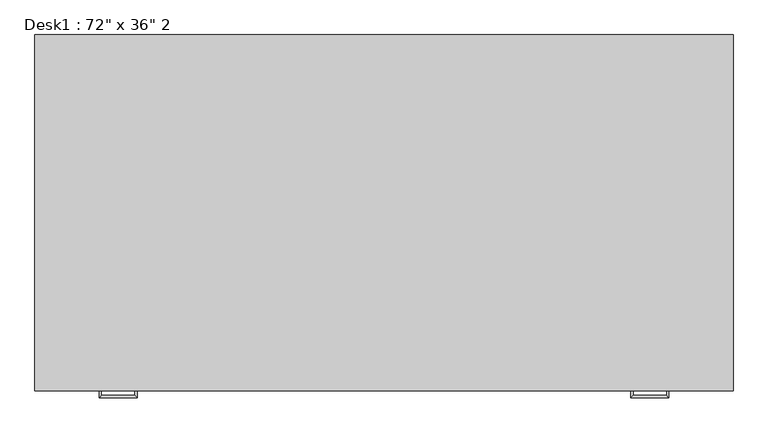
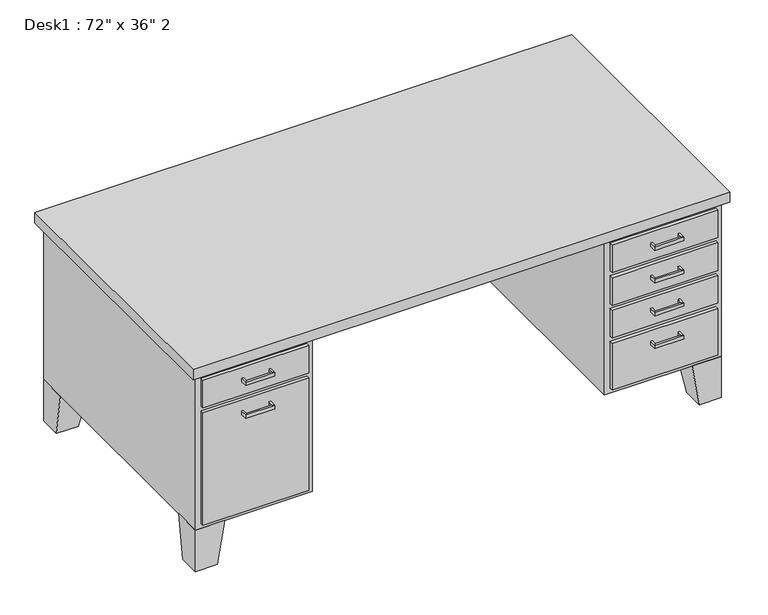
"""IFC4 building model written with IfcOpenShell, lengths in millimetres: furniture geometry."""

import ifcopenshell
import ifcopenshell.guid

model = None  # the IFC model being written
_history = None  # IfcOwnerHistory: only IFC2X3 demands one
_inside = {}  # id of a spatial element -> (the spatial element, [elements in it])
_under = {}  # id of a project, library or spatial element -> (it, [spatial elements below it])
_declared = {}  # id of a project -> (the project, [libraries it declares])
_typed = {}  # id of a type object -> (the type object, [elements of that type])
_made_of = {}  # id of a material, layer set ... -> (it, [elements and type objects made of it])


def new_model(schema):
    """Start an empty IFC model of exactly this schema.

    Asked for "IFC4X3", IfcOpenShell would pick the latest addendum, in which some entities
    have other attributes; the version numbers below select the first issue.
    IFC2X3 requires an IfcOwnerHistory on every rooted entity: one is made here for all.
    """
    global model, _history
    if schema == "IFC4X3":
        model = ifcopenshell.file(schema_version=(4, 3, 0, 0))
    else:
        model = ifcopenshell.file(schema=schema)
    _inside.clear()
    _under.clear()
    _declared.clear()
    _typed.clear()
    _made_of.clear()
    _history = None
    if model.schema == "IFC2X3":
        org = make("IfcOrganization", Name="unknown")
        user = make(
            "IfcPersonAndOrganization",
            ThePerson=make("IfcPerson", FamilyName="unknown"),
            TheOrganization=org,
        )
        app = make(
            "IfcApplication",
            ApplicationDeveloper=org,
            Version="unknown",
            ApplicationFullName="unknown",
            ApplicationIdentifier="unknown",
        )
        _history = make(
            "IfcOwnerHistory",
            OwningUser=user,
            OwningApplication=app,
            ChangeAction="ADDED",
            CreationDate=0,
        )
    return model


def make(cls, **values):
    """One entity of the class cls with the attributes given. An attribute that is None is left unset."""
    return model.create_entity(
        cls, **{name: value for name, value in values.items() if value is not None}
    )


def rooted(cls, **values):
    """An entity with a GlobalId (a new one), such as an element, a storey or a relation."""
    return make(cls, GlobalId=ifcopenshell.guid.new(), OwnerHistory=_history, **values)


def si_unit(unit_type, name, prefix=None):
    """IfcSIUnit, for example si_unit("LENGTHUNIT", "METRE", prefix="MILLI")."""
    return make("IfcSIUnit", UnitType=unit_type, Prefix=prefix, Name=name)


def assignment(units):
    """IfcUnitAssignment: the units of a project."""
    return None if units is None else make("IfcUnitAssignment", Units=units)


def point(xyz):
    """IfcCartesianPoint."""
    return None if xyz is None else make("IfcCartesianPoint", Coordinates=xyz)


def direction(xyz):
    """IfcDirection."""
    return None if xyz is None else make("IfcDirection", DirectionRatios=xyz)


def frame(location, z_axis=None, x_axis=None):
    """IfcAxis2Placement3D, a coordinate frame: its origin and axes. An axis left out is left unset."""
    return make(
        "IfcAxis2Placement3D",
        Location=point(location),
        Axis=direction(z_axis),
        RefDirection=direction(x_axis),
    )


def origin():
    """The frame at (0, 0, 0) with its axes left unset."""
    return frame((0.0, 0.0, 0.0))


def place(relative_to, where):
    """IfcLocalPlacement: puts the frame where relative to a parent placement (None: the world)."""
    return make(
        "IfcLocalPlacement", PlacementRelTo=relative_to, RelativePlacement=where
    )


def context(
    kind, dimensions, precision=None, world=None, true_north=None, identifier=None
):
    """IfcGeometricRepresentationContext, for example the 3D "Model" context."""
    return make(
        "IfcGeometricRepresentationContext",
        ContextIdentifier=identifier,
        ContextType=kind,
        CoordinateSpaceDimension=dimensions,
        Precision=precision,
        WorldCoordinateSystem=world,
        TrueNorth=true_north,
    )


def project(units=None, contexts=None):
    """IfcProject with its units and contexts."""
    return rooted(
        "IfcProject",
        Name="project",
        RepresentationContexts=contexts,
        UnitsInContext=assignment(units),
    )


def spatial(cls, under=None, at=None, **own):
    """A site, building, storey or space (cls), placed at a placement, below another one or the project."""
    s = rooted(cls, ObjectPlacement=at, **own)
    if under is not None:
        _under.setdefault(under.id(), (under, []))[1].append(s)
    return s


def polyline(points):
    """IfcPolyline through the points."""
    return make("IfcPolyline", Points=[point(p) for p in points])


def outline(outer, holes=None, kind="AREA"):
    """IfcArbitraryClosedProfileDef: a profile drawn as a closed curve; with holes, ...WithVoids."""
    if holes is None:
        return make("IfcArbitraryClosedProfileDef", ProfileType=kind, OuterCurve=outer)
    return make(
        "IfcArbitraryProfileDefWithVoids",
        ProfileType=kind,
        OuterCurve=outer,
        InnerCurves=holes,
    )


def extrude(swept, where, along, depth):
    """IfcExtrudedAreaSolid: the profile swept, set in the frame where, extruded along a direction by depth."""
    return make(
        "IfcExtrudedAreaSolid",
        SweptArea=swept,
        Position=where,
        ExtrudedDirection=direction(along),
        Depth=depth,
    )


def faces_of(points, faces, orient=None, outer=None):
    """IfcFace entities. A face is a list of loops; a loop is a list of indices into points, from 0.

    orient and outer hold one flag for each loop. By default every Orientation is true, the
    first loop of a face is its IfcFaceOuterBound and the others are IfcFaceBound.
    """
    made = []
    for i, loops in enumerate(faces):
        bounds = []
        for j, loop in enumerate(loops):
            is_outer = j == 0 if outer is None else outer[i][j]
            bounds.append(
                make(
                    "IfcFaceOuterBound" if is_outer else "IfcFaceBound",
                    Bound=make("IfcPolyLoop", Polygon=[points[k] for k in loop]),
                    Orientation=True if orient is None else orient[i][j],
                )
            )
        made.append(make("IfcFace", Bounds=bounds))
    return made


def faceted_brep(points, faces, orient=None, outer=None, voids=None):
    """IfcFacetedBrep: a solid bounded by flat faces; with voids (closed shells), ...WithVoids."""
    shared = [point(p) for p in points]
    hull = make("IfcClosedShell", CfsFaces=faces_of(shared, faces, orient, outer))
    if voids is None:
        return make("IfcFacetedBrep", Outer=hull)
    return make(
        "IfcFacetedBrepWithVoids",
        Outer=hull,
        Voids=[
            make(cls, CfsFaces=faces_of(shared, fs, o, b)) for cls, fs, o, b in voids
        ],
    )


def shape(context_of_items, identifier, shape_type, items):
    """IfcShapeRepresentation: the items that make up one representation, for example the "Body"."""
    return make(
        "IfcShapeRepresentation",
        ContextOfItems=context_of_items,
        RepresentationIdentifier=identifier,
        RepresentationType=shape_type,
        Items=items,
    )


def source(mapping_origin, context_of_items, identifier, shape_type, items):
    """IfcRepresentationMap: a shape defined once, which mapped items show again and again."""
    return make(
        "IfcRepresentationMap",
        MappingOrigin=mapping_origin,
        MappedRepresentation=shape(context_of_items, identifier, shape_type, items),
    )


def transform(
    local_origin,
    x_axis=None,
    y_axis=None,
    z_axis=None,
    scale=None,
    scale2=None,
    scale3=None,
    uniform=True,
):
    """IfcCartesianTransformationOperator3D, or its non-uniform kind. x_axis, y_axis, z_axis: its Axis1, 2, 3."""
    if uniform:
        return make(
            "IfcCartesianTransformationOperator3D",
            Axis1=direction(x_axis),
            Axis2=direction(y_axis),
            LocalOrigin=point(local_origin),
            Scale=scale,
            Axis3=direction(z_axis),
        )
    return make(
        "IfcCartesianTransformationOperator3DnonUniform",
        Axis1=direction(x_axis),
        Axis2=direction(y_axis),
        LocalOrigin=point(local_origin),
        Scale=scale,
        Axis3=direction(z_axis),
        Scale2=scale2,
        Scale3=scale3,
    )


def mapped(mapping_source, mapping_target):
    """IfcMappedItem: shows the shape of a source again, moved by a transform."""
    return make(
        "IfcMappedItem", MappingSource=mapping_source, MappingTarget=mapping_target
    )


def made_of(thing, what):
    """Note that an element or type object is made of a material, layer set ...; save() writes the relation."""
    if what is not None:
        _made_of.setdefault(what.id(), (what, []))[1].append(thing)
    return thing


def element(
    cls,
    number,
    at=None,
    inside=None,
    cuts=None,
    type_object=None,
    material=None,
    context=None,
    identifier="Body",
    shape_type=None,
    held_by="IfcProductDefinitionShape",
    body=None,
    shapes=None,
    **own,
):
    """One element of the class cls, such as IfcWall. Its Tag is "e" and its number.

    at: its placement. inside: the storey or other place that contains it. cuts: it is an
    opening in that element (IfcRelVoidsElement). A single representation is given by context,
    identifier, shape_type and body (its items); several are given by shapes. held_by: the class
    of the entity that holds the representations. save() writes the other relations.
    """
    e = rooted(cls, Tag="e%d" % number, ObjectPlacement=at, **own)
    if body is not None:
        shapes = [shape(context, identifier, shape_type, body)]
    if shapes is not None:
        e.Representation = make(held_by, Representations=shapes)
    if inside is not None:
        _inside.setdefault(inside.id(), (inside, []))[1].append(e)
    if cuts is not None:
        rooted(
            "IfcRelVoidsElement", RelatingBuildingElement=cuts, RelatedOpeningElement=e
        )
    if type_object is not None:
        _typed.setdefault(type_object.id(), (type_object, []))[1].append(e)
    return made_of(e, material)


def aggregate(whole, parts):
    """IfcRelAggregates: a whole, such as a stair, and the parts it consists of."""
    return rooted("IfcRelAggregates", RelatingObject=whole, RelatedObjects=parts)


def save(model, path):
    """Write the relations noted so far, then the file.

    IfcRelAggregates (storeys below a building ...), IfcRelContainedInSpatialStructure (elements
    in a storey), IfcRelDefinesByType, IfcRelAssociatesMaterial and IfcRelDeclares: one each for
    every whole, place, type object, material and project.
    """
    for whole, parts in _under.values():
        aggregate(whole, parts)
    for where, things in _inside.values():
        rooted(
            "IfcRelContainedInSpatialStructure",
            RelatedElements=things,
            RelatingStructure=where,
        )
    for kind, things in _typed.values():
        rooted("IfcRelDefinesByType", RelatedObjects=things, RelatingType=kind)
    for what, things in _made_of.values():
        rooted("IfcRelAssociatesMaterial", RelatedObjects=things, RelatingMaterial=what)
    for by, libraries in _declared.values():
        rooted("IfcRelDeclares", RelatingContext=by, RelatedDefinitions=libraries)
    model.write(path)


def furniture_95783df2(model_context):
    return source(origin(), model_context, "Body", "SolidModel", [
        extrude(outline(polyline([(-133.35, -76.2), (234.95, -76.2), (234.95, -88.9), (-133.35, -88.9), (-133.35, -76.2)])), frame((0.0, 0.0, 603.25), z_axis=(0.0, 0.0, 1.0), x_axis=(1.0, 0.0, 0.0)), (0.0, 0.0, 1.0), 101.6),
        extrude(outline(polyline([(-133.35, -76.2), (234.95, -76.2), (234.95, -88.9), (-133.35, -88.9), (-133.35, -76.2)])), frame((0.0, 0.0, 171.45), z_axis=(0.0, 0.0, 1.0), x_axis=(1.0, 0.0, 0.0)), (0.0, 0.0, 1.0), 412.75),
        extrude(outline(polyline([(1289.05, -76.2), (1657.35, -76.2), (1657.35, -88.9), (1289.05, -88.9), (1289.05, -76.2)])), frame((0.0, 0.0, 603.25), z_axis=(0.0, 0.0, 1.0), x_axis=(1.0, 0.0, 0.0)), (0.0, 0.0, 1.0), 101.6),
        extrude(outline(polyline([(1289.05, -76.2), (1657.35, -76.2), (1657.35, -88.9), (1289.05, -88.9), (1289.05, -76.2)])), frame((0.0, 0.0, 171.45), z_axis=(0.0, 0.0, 1.0), x_axis=(1.0, 0.0, 0.0)), (0.0, 0.0, 1.0), 171.45),
        extrude(outline(polyline([(1289.05, -76.2), (1657.35, -76.2), (1657.35, -88.9), (1289.05, -88.9), (1289.05, -76.2)])), frame((0.0, 0.0, 482.6), z_axis=(0.0, 0.0, 1.0), x_axis=(1.0, 0.0, 0.0)), (0.0, 0.0, 1.0), 101.6),
        extrude(outline(polyline([(1289.05, -76.2), (1657.35, -76.2), (1657.35, -88.9), (1289.05, -88.9), (1289.05, -76.2)])), frame((0.0, 0.0, 361.95), z_axis=(0.0, 0.0, 1.0), x_axis=(1.0, 0.0, 0.0)), (0.0, 0.0, 1.0), 101.6),
        faceted_brep([(-50.8, -76.2, 152.4), (-50.8, 25.4, 152.4), (-152.4, 25.4, 152.4), (-152.4, -76.2, 152.4), (-76.2, -76.2, 0.0), (-152.4, -76.2, 0.0), (-152.4, 0.0, 0.0), (-76.2, 0.0, 0.0)], [[[0, 1, 2, 3]], [[4, 5, 6, 7]], [[4, 7, 1, 0]], [[7, 6, 2, 1]], [[6, 5, 3, 2]], [[5, 4, 0, 3]]]),
        faceted_brep([(-50.8, 838.2, 152.4), (-152.4, 838.2, 152.4), (-152.4, 736.6, 152.4), (-50.8, 736.6, 152.4), (-76.2, 838.2, 0.0), (-76.2, 762.0, 0.0), (-152.4, 762.0, 0.0), (-152.4, 838.2, 0.0)], [[[0, 1, 2, 3]], [[4, 5, 6, 7]], [[4, 7, 1, 0]], [[7, 6, 2, 1]], [[6, 5, 3, 2]], [[5, 4, 0, 3]]]),
        faceted_brep([(1574.8, 838.2, 152.4), (1574.8, 736.6, 152.4), (1676.4, 736.6, 152.4), (1676.4, 838.2, 152.4), (1600.2, 838.2, 0.0), (1676.4, 838.2, 0.0), (1676.4, 762.0, 0.0), (1600.2, 762.0, 0.0)], [[[0, 1, 2, 3]], [[4, 5, 6, 7]], [[4, 7, 1, 0]], [[7, 6, 2, 1]], [[6, 5, 3, 2]], [[5, 4, 0, 3]]]),
        faceted_brep([(1574.8, -76.2, 152.4), (1676.4, -76.2, 152.4), (1676.4, 25.4, 152.4), (1574.8, 25.4, 152.4), (1600.2, -76.2, 0.0), (1600.2, 0.0, 0.0), (1676.4, 0.0, 0.0), (1676.4, -76.2, 0.0)], [[[0, 1, 2, 3]], [[4, 5, 6, 7]], [[4, 7, 1, 0]], [[7, 6, 2, 1]], [[6, 5, 3, 2]], [[5, 4, 0, 3]]]),
        extrude(outline(polyline([(-171.45, -95.25), (-171.45, 857.25), (1695.45, 857.25), (1695.45, -95.25), (-171.45, -95.25)])), frame((0.0, 0.0, 723.9), z_axis=(0.0, 0.0, 1.0), x_axis=(1.0, 0.0, 0.0)), (0.0, 0.0, 1.0), 38.1),
        extrude(outline(polyline([(1270.0, -76.2), (1270.0, 711.2), (254.0, 711.2), (254.0, -76.2), (-152.4, -76.2), (-152.4, 838.2), (1676.4, 838.2), (1676.4, -76.2), (1270.0, -76.2)])), frame((0.0, 0.0, 152.4), z_axis=(0.0, 0.0, 1.0), x_axis=(1.0, 0.0, 0.0)), (0.0, 0.0, 1.0), 571.5),
        faceted_brep([(6.35, -88.9, 546.1), (6.35, -88.9, 533.4), (0.0, -88.9, 533.4), (0.0, -88.9, 546.1), (6.35, -107.95, 546.1), (6.35, -107.95, 533.4), (0.0, -114.3, 533.4), (0.0, -114.3, 546.1), (95.25, -107.95, 546.1), (95.25, -107.95, 533.4), (101.6, -114.3, 533.4), (101.6, -114.3, 546.1), (95.25, -88.9, 546.1), (101.6, -88.9, 546.1), (101.6, -88.9, 533.4), (95.25, -88.9, 533.4)], [[[0, 1, 2, 3]], [[1, 0, 4, 5]], [[2, 1, 5, 6]], [[3, 2, 6, 7]], [[0, 3, 7, 4]], [[5, 4, 8, 9]], [[6, 5, 9, 10]], [[7, 6, 10, 11]], [[4, 7, 11, 8]], [[12, 13, 14, 15]], [[9, 8, 12, 15]], [[10, 9, 15, 14]], [[11, 10, 14, 13]], [[8, 11, 13, 12]]]),
        faceted_brep([(6.35, -88.9, 666.75), (6.35, -88.9, 654.05), (0.0, -88.9, 654.05), (0.0, -88.9, 666.75), (6.35, -107.95, 666.75), (6.35, -107.95, 654.05), (0.0, -114.3, 654.05), (0.0, -114.3, 666.75), (95.25, -107.95, 666.75), (95.25, -107.95, 654.05), (101.6, -114.3, 654.05), (101.6, -114.3, 666.75), (95.25, -88.9, 666.75), (101.6, -88.9, 666.75), (101.6, -88.9, 654.05), (95.25, -88.9, 654.05)], [[[0, 1, 2, 3]], [[1, 0, 4, 5]], [[2, 1, 5, 6]], [[3, 2, 6, 7]], [[0, 3, 7, 4]], [[5, 4, 8, 9]], [[6, 5, 9, 10]], [[7, 6, 10, 11]], [[4, 7, 11, 8]], [[12, 13, 14, 15]], [[9, 8, 12, 15]], [[10, 9, 15, 14]], [[11, 10, 14, 13]], [[8, 11, 13, 12]]]),
        faceted_brep([(1517.65, -88.9, 304.8), (1524.0, -88.9, 304.8), (1524.0, -88.9, 292.1), (1517.65, -88.9, 292.1), (1517.65, -107.95, 304.8), (1524.0, -114.3, 304.8), (1524.0, -114.3, 292.1), (1517.65, -107.95, 292.1), (1428.75, -107.95, 304.8), (1422.4, -114.3, 304.8), (1422.4, -114.3, 292.1), (1428.75, -107.95, 292.1), (1428.75, -88.9, 304.8), (1428.75, -88.9, 292.1), (1422.4, -88.9, 292.1), (1422.4, -88.9, 304.8)], [[[0, 1, 2, 3]], [[1, 0, 4, 5]], [[2, 1, 5, 6]], [[3, 2, 6, 7]], [[0, 3, 7, 4]], [[5, 4, 8, 9]], [[6, 5, 9, 10]], [[7, 6, 10, 11]], [[4, 7, 11, 8]], [[12, 13, 14, 15]], [[9, 8, 12, 15]], [[10, 9, 15, 14]], [[11, 10, 14, 13]], [[8, 11, 13, 12]]]),
        faceted_brep([(1517.65, -88.9, 425.45), (1524.0, -88.9, 425.45), (1524.0, -88.9, 412.75), (1517.65, -88.9, 412.75), (1517.65, -107.95, 425.45), (1524.0, -114.3, 425.45), (1524.0, -114.3, 412.75), (1517.65, -107.95, 412.75), (1428.75, -107.95, 425.45), (1422.4, -114.3, 425.45), (1422.4, -114.3, 412.75), (1428.75, -107.95, 412.75), (1428.75, -88.9, 425.45), (1428.75, -88.9, 412.75), (1422.4, -88.9, 412.75), (1422.4, -88.9, 425.45)], [[[0, 1, 2, 3]], [[1, 0, 4, 5]], [[2, 1, 5, 6]], [[3, 2, 6, 7]], [[0, 3, 7, 4]], [[5, 4, 8, 9]], [[6, 5, 9, 10]], [[7, 6, 10, 11]], [[4, 7, 11, 8]], [[12, 13, 14, 15]], [[9, 8, 12, 15]], [[10, 9, 15, 14]], [[11, 10, 14, 13]], [[8, 11, 13, 12]]]),
        faceted_brep([(1517.65, -88.9, 546.1), (1524.0, -88.9, 546.1), (1524.0, -88.9, 533.4), (1517.65, -88.9, 533.4), (1517.65, -107.95, 546.1), (1524.0, -114.3, 546.1), (1524.0, -114.3, 533.4), (1517.65, -107.95, 533.4), (1428.75, -107.95, 546.1), (1422.4, -114.3, 546.1), (1422.4, -114.3, 533.4), (1428.75, -107.95, 533.4), (1428.75, -88.9, 546.1), (1428.75, -88.9, 533.4), (1422.4, -88.9, 533.4), (1422.4, -88.9, 546.1)], [[[0, 1, 2, 3]], [[1, 0, 4, 5]], [[2, 1, 5, 6]], [[3, 2, 6, 7]], [[0, 3, 7, 4]], [[5, 4, 8, 9]], [[6, 5, 9, 10]], [[7, 6, 10, 11]], [[4, 7, 11, 8]], [[12, 13, 14, 15]], [[9, 8, 12, 15]], [[10, 9, 15, 14]], [[11, 10, 14, 13]], [[8, 11, 13, 12]]]),
        faceted_brep([(1517.65, -88.9, 666.75), (1524.0, -88.9, 666.75), (1524.0, -88.9, 654.05), (1517.65, -88.9, 654.05), (1517.65, -107.95, 666.75), (1524.0, -114.3, 666.75), (1524.0, -114.3, 654.05), (1517.65, -107.95, 654.05), (1428.75, -107.95, 666.75), (1422.4, -114.3, 666.75), (1422.4, -114.3, 654.05), (1428.75, -107.95, 654.05), (1428.75, -88.9, 666.75), (1428.75, -88.9, 654.05), (1422.4, -88.9, 654.05), (1422.4, -88.9, 666.75)], [[[0, 1, 2, 3]], [[1, 0, 4, 5]], [[2, 1, 5, 6]], [[3, 2, 6, 7]], [[0, 3, 7, 4]], [[5, 4, 8, 9]], [[6, 5, 9, 10]], [[7, 6, 10, 11]], [[4, 7, 11, 8]], [[12, 13, 14, 15]], [[9, 8, 12, 15]], [[10, 9, 15, 14]], [[11, 10, 14, 13]], [[8, 11, 13, 12]]]),
    ])


if __name__ == "__main__":
    model = new_model("IFC4")
    model_context = context("Model", 3, world=origin())
    ifc_project = project(units=[si_unit("LENGTHUNIT", "METRE", prefix="MILLI")], contexts=[model_context])
    site = spatial("IfcSite", under=ifc_project)
    building = spatial("IfcBuilding", under=site)
    placement = place(None, origin())
    furniture_shape = furniture_95783df2(model_context)
    element("IfcFurniture", 1, ObjectType="Desk1 : 72\" x 36\" 2", at=placement, inside=building, context=model_context, shape_type="MappedRepresentation", body=[
        mapped(furniture_shape, transform((0.0, 0.0, 0.0), x_axis=(1.0, 0.0, 0.0), y_axis=(0.0, 1.0, 0.0), z_axis=(0.0, 0.0, 1.0))),
    ])
    save(model, "model.ifc")
